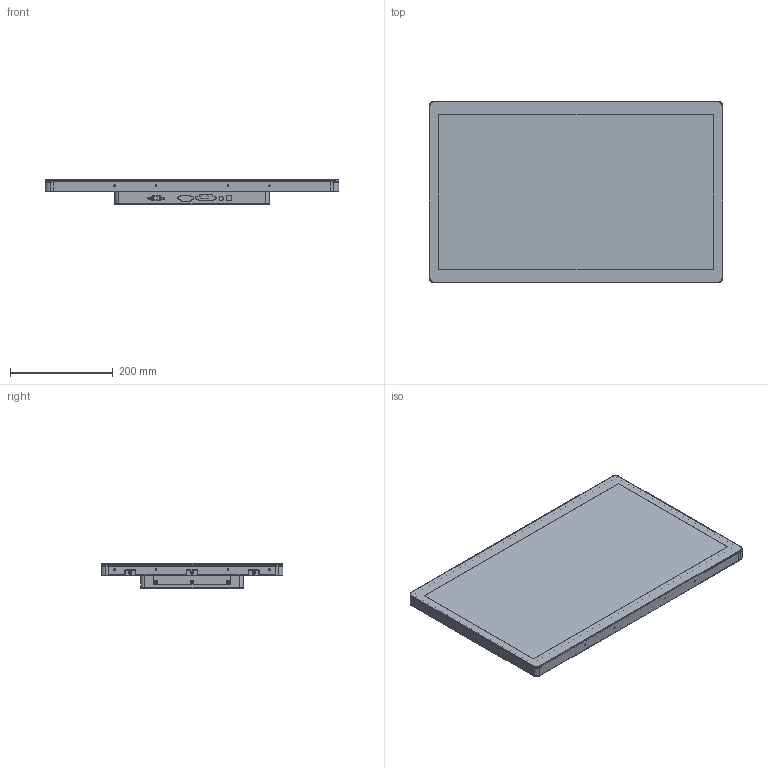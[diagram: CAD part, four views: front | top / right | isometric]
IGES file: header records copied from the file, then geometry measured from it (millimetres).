
Global section: file name: FIE240FM-P; native system: AutoCAD 2019 – 繁體中文 (Traditional Chinese),62HAutode; preprocessor: sk Translation Framework DWG producer (atf_dwg_producer); organization: unknown; date: 20210618.171009; units: millimetre
Bounding box: 570.2 x 353.2 x 47 mm (x, y, z)
Volume: 3553347.8 mm3; surface area: 1980219.2 mm2
Topology: 12 solids, 12 shells, 1426 faces, 3823 edges, 2594 vertices
Faces by surface type: bspline 1426
